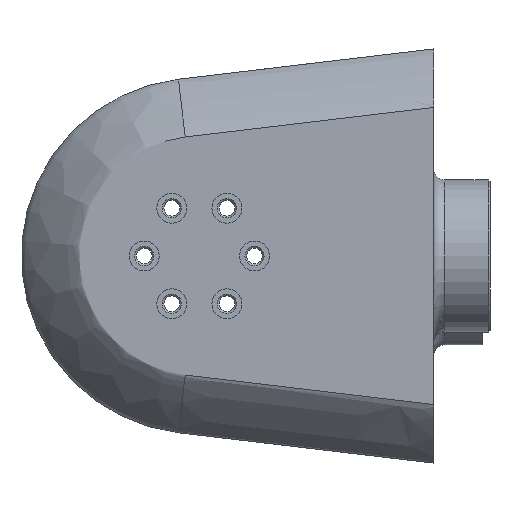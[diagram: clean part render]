
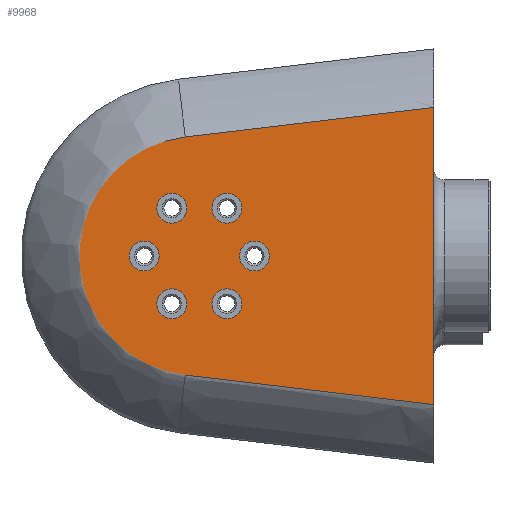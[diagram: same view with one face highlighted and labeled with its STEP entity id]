
A CAD part, front view. The second image highlights one B-rep face of the part: STEP entity #9968.
In plain terms, the highlighted planar face has unit normal (0, -1, 0).
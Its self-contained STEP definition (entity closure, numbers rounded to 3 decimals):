
#2684=CARTESIAN_POINT('',(-135.5,-55.,305.612));
#2743=CARTESIAN_POINT('',(-203.89,-55.,
313.73));
#2815=CARTESIAN_POINT('',(-203.89,-55.,
379.27));
#2831=DIRECTION('',(0.993,0.,0.118));
#2832=VECTOR('',#2831,68.87);
#2833=CARTESIAN_POINT('',(-203.89,-55.,
379.27));
#2834=LINE('',#2833,#2832);
#2835=DIRECTION('',(0.,0.,-1.));
#2836=VECTOR('',#2835,81.775);
#2837=CARTESIAN_POINT('',(-135.5,-55.,387.388));
#2838=LINE('',#2837,#2836);
#2839=DIRECTION('',(-0.993,0.,0.118));
#2840=VECTOR('',#2839,68.87);
#2841=CARTESIAN_POINT('',(-135.5,-55.,305.612));
#2842=LINE('',#2841,#2840);
#2843=CARTESIAN_POINT('',(-200.,-55.001,346.5));
#2844=DIRECTION('',(0.,1.,0.));
#2845=DIRECTION('',(-0.118,0.,-0.993));
#2846=AXIS2_PLACEMENT_3D('',#2843,#2844,#2845);
#2848=CARTESIAN_POINT('',(-215.18,-55.,346.5));
#2849=DIRECTION('',(0.,-1.,0.));
#2850=DIRECTION('',(0.,0.,-1.));
#2851=AXIS2_PLACEMENT_3D('',#2848,#2849,#2850);
#2853=CARTESIAN_POINT('',(-215.18,-55.,346.5));
#2854=DIRECTION('',(0.,-1.,0.));
#2855=DIRECTION('',(0.,0.,1.));
#2856=AXIS2_PLACEMENT_3D('',#2853,#2854,#2855);
#2858=CARTESIAN_POINT('',(-207.59,-55.,333.354));
#2859=DIRECTION('',(0.,-1.,0.));
#2860=DIRECTION('',(0.866,0.,-0.5));
#2861=AXIS2_PLACEMENT_3D('',#2858,#2859,#2860);
#2863=CARTESIAN_POINT('',(-207.59,-55.,333.354));
#2864=DIRECTION('',(0.,-1.,0.));
#2865=DIRECTION('',(-0.866,0.,0.5));
#2866=AXIS2_PLACEMENT_3D('',#2863,#2864,#2865);
#2868=CARTESIAN_POINT('',(-192.41,-55.,333.354));
#2869=DIRECTION('',(0.,-1.,0.));
#2870=DIRECTION('',(0.866,0.,0.5));
#2871=AXIS2_PLACEMENT_3D('',#2868,#2869,#2870);
#2873=CARTESIAN_POINT('',(-192.41,-55.,333.354));
#2874=DIRECTION('',(0.,-1.,0.));
#2875=DIRECTION('',(-0.866,0.,-0.5));
#2876=AXIS2_PLACEMENT_3D('',#2873,#2874,#2875);
#2878=CARTESIAN_POINT('',(-184.82,-55.,346.5));
#2879=DIRECTION('',(0.,-1.,0.));
#2880=DIRECTION('',(0.,0.,1.));
#2881=AXIS2_PLACEMENT_3D('',#2878,#2879,#2880);
#2883=CARTESIAN_POINT('',(-184.82,-55.,346.5));
#2884=DIRECTION('',(0.,-1.,0.));
#2885=DIRECTION('',(0.,0.,-1.));
#2886=AXIS2_PLACEMENT_3D('',#2883,#2884,#2885);
#2888=CARTESIAN_POINT('',(-192.41,-55.,359.646));
#2889=DIRECTION('',(0.,-1.,0.));
#2890=DIRECTION('',(-0.866,0.,0.5));
#2891=AXIS2_PLACEMENT_3D('',#2888,#2889,#2890);
#2893=CARTESIAN_POINT('',(-192.41,-55.,359.646));
#2894=DIRECTION('',(0.,-1.,0.));
#2895=DIRECTION('',(0.866,0.,-0.5));
#2896=AXIS2_PLACEMENT_3D('',#2893,#2894,#2895);
#2898=CARTESIAN_POINT('',(-207.59,-55.,359.646));
#2899=DIRECTION('',(0.,-1.,0.));
#2900=DIRECTION('',(-0.866,0.,-0.5));
#2901=AXIS2_PLACEMENT_3D('',#2898,#2899,#2900);
#2903=CARTESIAN_POINT('',(-207.59,-55.,359.646));
#2904=DIRECTION('',(0.,-1.,0.));
#2905=DIRECTION('',(0.866,0.,0.5));
#2906=AXIS2_PLACEMENT_3D('',#2903,#2904,#2905);
#5638=VERTEX_POINT('',#2684);
#5639=CARTESIAN_POINT('',(-135.5,-55.,387.388));
#5640=VERTEX_POINT('',#5639);
#5648=VERTEX_POINT('',#2743);
#5651=VERTEX_POINT('',#2815);
#5656=CARTESIAN_POINT('',(-215.18,-55.,342.375));
#5657=CARTESIAN_POINT('',(-215.18,-55.,350.625));
#5658=VERTEX_POINT('',#5656);
#5659=VERTEX_POINT('',#5657);
#5660=CARTESIAN_POINT('',(-204.018,-55.,331.291));
#5661=CARTESIAN_POINT('',(-211.162,-55.,335.416));
#5662=VERTEX_POINT('',#5660);
#5663=VERTEX_POINT('',#5661);
#5664=CARTESIAN_POINT('',(-188.838,-55.,335.416));
#5665=CARTESIAN_POINT('',(-195.982,-55.,331.291));
#5666=VERTEX_POINT('',#5664);
#5667=VERTEX_POINT('',#5665);
#5668=CARTESIAN_POINT('',(-184.82,-55.,350.625));
#5669=CARTESIAN_POINT('',(-184.82,-55.,342.375));
#5670=VERTEX_POINT('',#5668);
#5671=VERTEX_POINT('',#5669);
#5672=CARTESIAN_POINT('',(-195.982,-55.,361.709));
#5673=CARTESIAN_POINT('',(-188.838,-55.,357.584));
#5674=VERTEX_POINT('',#5672);
#5675=VERTEX_POINT('',#5673);
#5676=CARTESIAN_POINT('',(-211.162,-55.,357.584));
#5677=CARTESIAN_POINT('',(-204.018,-55.,361.709));
#5678=VERTEX_POINT('',#5676);
#5679=VERTEX_POINT('',#5677);
#9921=CARTESIAN_POINT('',(-255.5,-55.,346.5));
#9922=DIRECTION('',(0.,1.,0.));
#9923=DIRECTION('',(0.,0.,1.));
#9924=AXIS2_PLACEMENT_3D('',#9921,#9922,#9923);
#9925=PLANE('',#9924);
#9926=ORIENTED_EDGE('',*,*,#9914,.T.);
#9927=ORIENTED_EDGE('',*,*,#8472,.T.);
#9928=ORIENTED_EDGE('',*,*,#9862,.T.);
#9929=ORIENTED_EDGE('',*,*,#9891,.T.);
#9930=EDGE_LOOP('',(#9926,#9927,#9928,#9929));
#9931=FACE_OUTER_BOUND('',#9930,.F.);
#9933=ORIENTED_EDGE('',*,*,#9932,.T.);
#9935=ORIENTED_EDGE('',*,*,#9934,.T.);
#9936=EDGE_LOOP('',(#9933,#9935));
#9937=FACE_BOUND('',#9936,.F.);
#9939=ORIENTED_EDGE('',*,*,#9938,.T.);
#9941=ORIENTED_EDGE('',*,*,#9940,.T.);
#9942=EDGE_LOOP('',(#9939,#9941));
#9943=FACE_BOUND('',#9942,.F.);
#9945=ORIENTED_EDGE('',*,*,#9944,.T.);
#9947=ORIENTED_EDGE('',*,*,#9946,.T.);
#9948=EDGE_LOOP('',(#9945,#9947));
#9949=FACE_BOUND('',#9948,.F.);
#9951=ORIENTED_EDGE('',*,*,#9950,.T.);
#9953=ORIENTED_EDGE('',*,*,#9952,.T.);
#9954=EDGE_LOOP('',(#9951,#9953));
#9955=FACE_BOUND('',#9954,.F.);
#9957=ORIENTED_EDGE('',*,*,#9956,.T.);
#9959=ORIENTED_EDGE('',*,*,#9958,.T.);
#9960=EDGE_LOOP('',(#9957,#9959));
#9961=FACE_BOUND('',#9960,.F.);
#9963=ORIENTED_EDGE('',*,*,#9962,.T.);
#9965=ORIENTED_EDGE('',*,*,#9964,.T.);
#9966=EDGE_LOOP('',(#9963,#9965));
#9967=FACE_BOUND('',#9966,.F.);
#9968=ADVANCED_FACE('',(#9931,#9937,#9943,#9949,#9955,#9961,#9967),#9925,.F.);
#2847=CIRCLE('',#2846,33.);
#2852=CIRCLE('',#2851,4.125);
#2857=CIRCLE('',#2856,4.125);
#2862=CIRCLE('',#2861,4.125);
#2867=CIRCLE('',#2866,4.125);
#2872=CIRCLE('',#2871,4.125);
#2877=CIRCLE('',#2876,4.125);
#2882=CIRCLE('',#2881,4.125);
#2887=CIRCLE('',#2886,4.125);
#2892=CIRCLE('',#2891,4.125);
#2897=CIRCLE('',#2896,4.125);
#2902=CIRCLE('',#2901,4.125);
#2907=CIRCLE('',#2906,4.125);
#8472=EDGE_CURVE('',#5640,#5638,#2838,.T.);
#9862=EDGE_CURVE('',#5638,#5648,#2842,.T.);
#9891=EDGE_CURVE('',#5648,#5651,#2847,.T.);
#9914=EDGE_CURVE('',#5651,#5640,#2834,.T.);
#9932=EDGE_CURVE('',#5658,#5659,#2852,.T.);
#9934=EDGE_CURVE('',#5659,#5658,#2857,.T.);
#9938=EDGE_CURVE('',#5662,#5663,#2862,.T.);
#9940=EDGE_CURVE('',#5663,#5662,#2867,.T.);
#9944=EDGE_CURVE('',#5666,#5667,#2872,.T.);
#9946=EDGE_CURVE('',#5667,#5666,#2877,.T.);
#9950=EDGE_CURVE('',#5670,#5671,#2882,.T.);
#9952=EDGE_CURVE('',#5671,#5670,#2887,.T.);
#9956=EDGE_CURVE('',#5674,#5675,#2892,.T.);
#9958=EDGE_CURVE('',#5675,#5674,#2897,.T.);
#9962=EDGE_CURVE('',#5678,#5679,#2902,.T.);
#9964=EDGE_CURVE('',#5679,#5678,#2907,.T.);
